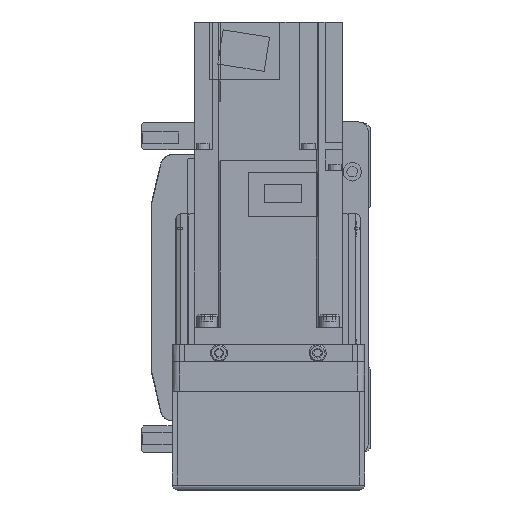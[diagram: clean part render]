
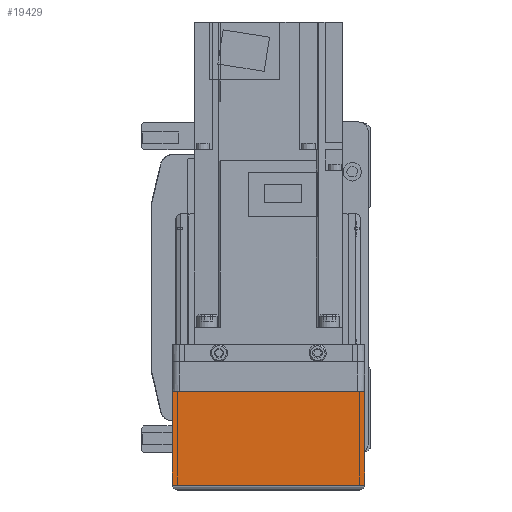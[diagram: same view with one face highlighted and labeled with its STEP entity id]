
A CAD part, left-side view. The second image highlights one B-rep face of the part: STEP entity #19429.
In plain terms, the highlighted planar face has unit normal (-1, 0, 0).
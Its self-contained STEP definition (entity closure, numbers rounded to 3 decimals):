
#2870=ORIENTED_EDGE('',*,*,#7803,.F.);
#2871=ORIENTED_EDGE('',*,*,#7804,.F.);
#2872=ORIENTED_EDGE('',*,*,#7805,.T.);
#2873=ORIENTED_EDGE('',*,*,#7806,.F.);
#7803=EDGE_CURVE('',#10368,#10359,#12377,.T.);
#7804=EDGE_CURVE('',#10385,#10368,#12378,.T.);
#7805=EDGE_CURVE('',#10385,#10386,#12379,.T.);
#7806=EDGE_CURVE('',#10359,#10386,#12380,.T.);
#10359=VERTEX_POINT('',#29782);
#10368=VERTEX_POINT('',#29800);
#10385=VERTEX_POINT('',#29848);
#10386=VERTEX_POINT('',#29850);
#12377=LINE('',#29846,#14087);
#12378=LINE('',#29847,#14088);
#12379=LINE('',#29849,#14089);
#12380=LINE('',#29851,#14090);
#14087=VECTOR('',#23881,1000.);
#14088=VECTOR('',#23882,1000.);
#14089=VECTOR('',#23883,1000.);
#14090=VECTOR('',#23884,1000.);
#15629=EDGE_LOOP('',(#2870,#2871,#2872,#2873));
#17219=FACE_BOUND('',#15629,.T.);
#18650=PLANE('',#20815);
#19429=ADVANCED_FACE('',(#17219),#18650,.F.);
#20815=AXIS2_PLACEMENT_3D('',#29845,#23879,#23880);
#23879=DIRECTION('',(1.,0.,0.));
#23880=DIRECTION('',(0.,0.,-1.));
#23881=DIRECTION('',(0.,-1.,0.));
#23882=DIRECTION('',(0.,0.,1.));
#23883=DIRECTION('',(0.,-1.,0.));
#23884=DIRECTION('',(0.,0.,-1.));
#29782=CARTESIAN_POINT('',(-158.,-39.,-12.1));
#29800=CARTESIAN_POINT('',(-158.,39.,-12.1));
#29845=CARTESIAN_POINT('',(-158.,36.,7.));
#29846=CARTESIAN_POINT('',(-158.,50.,-12.1));
#29847=CARTESIAN_POINT('',(-158.,39.,-50.));
#29848=CARTESIAN_POINT('',(-158.,39.,-50.));
#29849=CARTESIAN_POINT('',(-158.,40.,-50.));
#29850=CARTESIAN_POINT('',(-158.,-39.,-50.));
#29851=CARTESIAN_POINT('',(-158.,-39.,-12.1));
